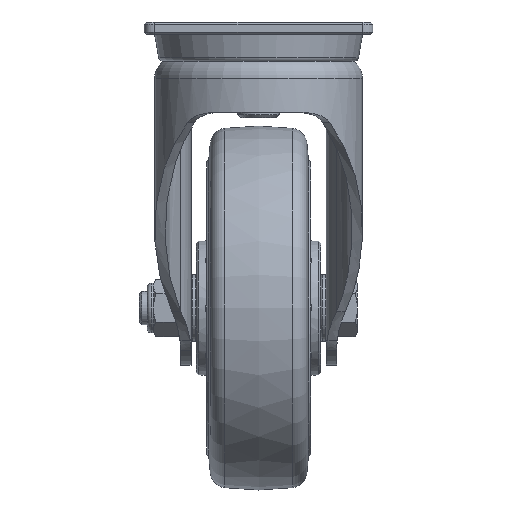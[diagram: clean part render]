
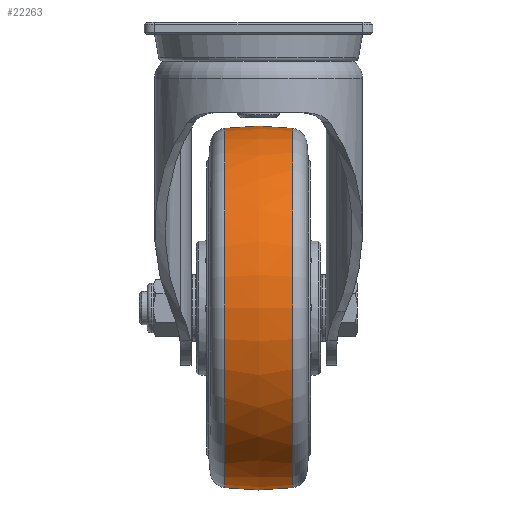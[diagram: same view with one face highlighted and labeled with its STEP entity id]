
A CAD part, left-side view. The second image highlights one B-rep face of the part: STEP entity #22263.
In plain terms, the highlighted free-form (B-spline) face has degree [2, 2] with [3, 9] control points.
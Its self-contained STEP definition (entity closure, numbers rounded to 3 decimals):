
#15=(
BOUNDED_SURFACE()
B_SPLINE_SURFACE(2,2,((#36801,#36802,#36803,#36804,#36805,#36806,#36807,
#36808,#36809),(#36810,#36811,#36812,#36813,#36814,#36815,#36816,#36817,
#36818),(#36819,#36820,#36821,#36822,#36823,#36824,#36825,#36826,#36827)),
 .UNSPECIFIED.,.F.,.T.,.F.)
B_SPLINE_SURFACE_WITH_KNOTS((3,3),(3,2,2,2,3),(-0.137,0.137),
(-3.142,-1.571,0.,1.571,3.142),
 .UNSPECIFIED.)
GEOMETRIC_REPRESENTATION_ITEM()
RATIONAL_B_SPLINE_SURFACE(((1.,0.707,1.,0.707,1.,
0.707,1.,0.707,1.),(0.991,0.701,
0.991,0.701,0.991,0.701,
0.991,0.701,0.991),(1.,0.707,
1.,0.707,1.,0.707,1.,0.707,1.)))
REPRESENTATION_ITEM('')
SURFACE()
);
#3442=FACE_OUTER_BOUND('',#4897,.T.);
#4897=EDGE_LOOP('',(#18196,#18197,#18198,#18199));
#8419=CIRCLE('',#23752,86.379);
#8423=CIRCLE('',#23756,86.379);
#8424=CIRCLE('',#23757,120.);
#10190=VERTEX_POINT('',#36794);
#10193=VERTEX_POINT('',#36828);
#12936=EDGE_CURVE('',#10190,#10190,#8419,.T.);
#12940=EDGE_CURVE('',#10193,#10193,#8423,.T.);
#12941=EDGE_CURVE('',#10193,#10190,#8424,.T.);
#18196=ORIENTED_EDGE('',*,*,#12940,.F.);
#18197=ORIENTED_EDGE('',*,*,#12941,.T.);
#18198=ORIENTED_EDGE('',*,*,#12936,.F.);
#18199=ORIENTED_EDGE('',*,*,#12941,.F.);
#22263=ADVANCED_FACE('',(#3442),#15,.F.);
#23752=AXIS2_PLACEMENT_3D('',#36795,#27326,#27327);
#23756=AXIS2_PLACEMENT_3D('',#36829,#27334,#27335);
#23757=AXIS2_PLACEMENT_3D('',#36830,#27336,#27337);
#27326=DIRECTION('center_axis',(0.,-1.,0.));
#27327=DIRECTION('ref_axis',(0.,0.,
-1.));
#27334=DIRECTION('center_axis',(0.,1.,0.));
#27335=DIRECTION('ref_axis',(0.,0.,
-1.));
#27336=DIRECTION('center_axis',(0.,0.,
-1.));
#27337=DIRECTION('ref_axis',(1.,0.,0.));
#36794=CARTESIAN_POINT('',(146.379,-16.365,-137.525));
#36795=CARTESIAN_POINT('Origin',(60.,-16.365,-137.525));
#36801=CARTESIAN_POINT('Ctrl Pts',(146.379,-16.365,-137.525));
#36802=CARTESIAN_POINT('Ctrl Pts',(146.379,-16.365,-223.904));
#36803=CARTESIAN_POINT('Ctrl Pts',(60.,-16.365,-223.904));
#36804=CARTESIAN_POINT('Ctrl Pts',(-26.379,-16.365,
-223.904));
#36805=CARTESIAN_POINT('Ctrl Pts',(-26.379,-16.365,
-137.525));
#36806=CARTESIAN_POINT('Ctrl Pts',(-26.379,-16.365,
-51.146));
#36807=CARTESIAN_POINT('Ctrl Pts',(60.,-16.365,-51.146));
#36808=CARTESIAN_POINT('Ctrl Pts',(146.379,-16.365,-51.146));
#36809=CARTESIAN_POINT('Ctrl Pts',(146.379,-16.365,-137.525));
#36810=CARTESIAN_POINT('Ctrl Pts',(148.632,0.,
-137.525));
#36811=CARTESIAN_POINT('Ctrl Pts',(148.632,0.,
-226.157));
#36812=CARTESIAN_POINT('Ctrl Pts',(60.,0.,-226.157));
#36813=CARTESIAN_POINT('Ctrl Pts',(-28.632,0.,
-226.157));
#36814=CARTESIAN_POINT('Ctrl Pts',(-28.632,0.,
-137.525));
#36815=CARTESIAN_POINT('Ctrl Pts',(-28.632,0.,
-48.893));
#36816=CARTESIAN_POINT('Ctrl Pts',(60.,0.,-48.893));
#36817=CARTESIAN_POINT('Ctrl Pts',(148.632,0.,
-48.893));
#36818=CARTESIAN_POINT('Ctrl Pts',(148.632,0.,
-137.525));
#36819=CARTESIAN_POINT('Ctrl Pts',(146.379,16.365,-137.525));
#36820=CARTESIAN_POINT('Ctrl Pts',(146.379,16.365,-223.904));
#36821=CARTESIAN_POINT('Ctrl Pts',(60.,16.365,-223.904));
#36822=CARTESIAN_POINT('Ctrl Pts',(-26.379,16.365,-223.904));
#36823=CARTESIAN_POINT('Ctrl Pts',(-26.379,16.365,-137.525));
#36824=CARTESIAN_POINT('Ctrl Pts',(-26.379,16.365,-51.146));
#36825=CARTESIAN_POINT('Ctrl Pts',(60.,16.365,-51.146));
#36826=CARTESIAN_POINT('Ctrl Pts',(146.379,16.365,-51.146));
#36827=CARTESIAN_POINT('Ctrl Pts',(146.379,16.365,-137.525));
#36828=CARTESIAN_POINT('',(146.379,16.365,-137.525));
#36829=CARTESIAN_POINT('Origin',(60.,16.365,-137.525));
#36830=CARTESIAN_POINT('Origin',(27.5,0.,-137.525));
